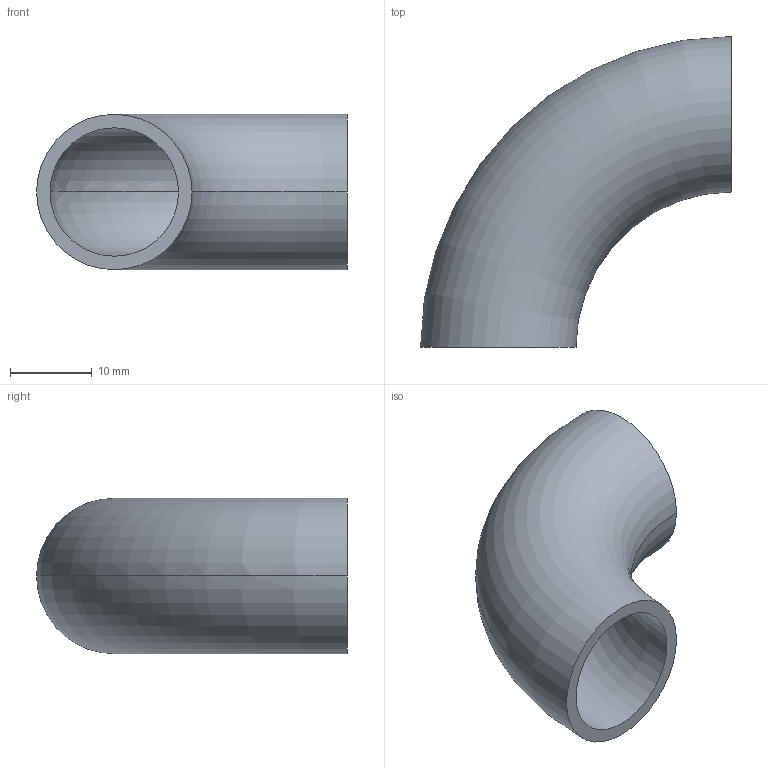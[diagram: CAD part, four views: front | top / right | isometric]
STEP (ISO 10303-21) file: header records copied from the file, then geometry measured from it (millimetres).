
FILE_DESCRIPTION (( 'STEP AP203' ), '1' );
FILE_NAME ('2WCL.75.STEP', '2018-04-30T15:27:42', ( 'vneprd' ), ( 'Microsoft' ), 'SwSTEP 2.0', 'SolidWorks 2014', '' );
FILE_SCHEMA (( 'CONFIG_CONTROL_DESIGN' ));
Length unit declared in the file: inch
Products named in the file (1): 2WCL.75
Bounding box: 38.1 x 38.1 x 19.05 mm (x, y, z)
Volume: 4050.7 mm3; surface area: 5087.4 mm2
Topology: 1 solids, 1 shells, 6 faces, 12 edges, 8 vertices
Faces by surface type: torus 4, plane 2
Entity records: 251 total; most frequent: DIRECTION 38, CARTESIAN_POINT 27, ORIENTED_EDGE 24, AXIS2_PLACEMENT_3D 19, CIRCLE 12, EDGE_CURVE 12, VERTEX_POINT 8, PERSON_AND_ORGANIZATION 8
